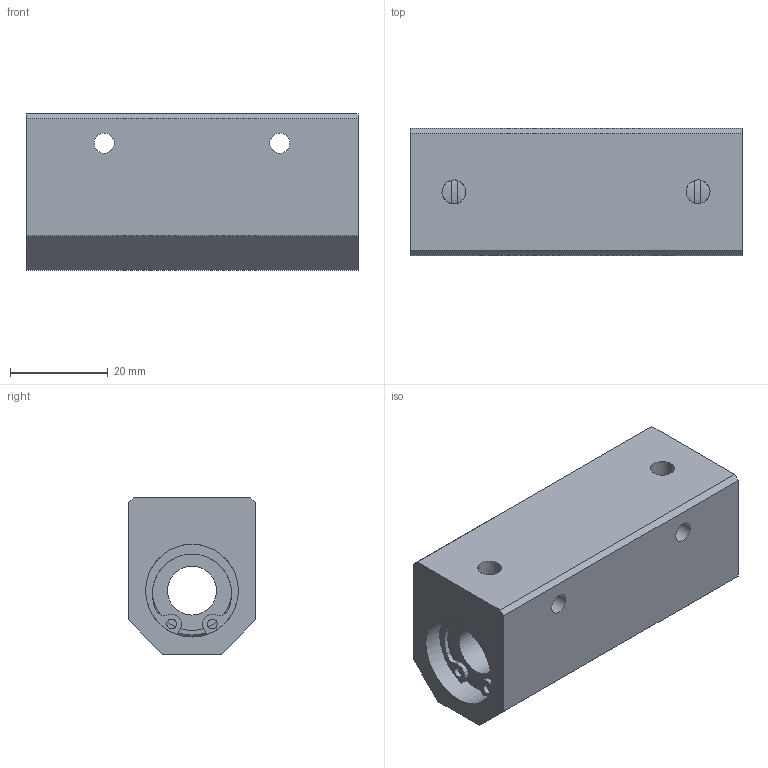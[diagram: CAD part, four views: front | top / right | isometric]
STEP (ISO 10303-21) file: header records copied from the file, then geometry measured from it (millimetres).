
FILE_DESCRIPTION((''),'2;1');
FILE_NAME('D:\製品 (図面)\カタログ用3D\リニアベアリング関連(改)\STEP形式\CHW\CHW10.stp','2010-01-25T09:39:20',('Tsuchiya'),(''),'Autodesk Inventor 10','Autodesk Inventor 10','');
FILE_SCHEMA(('AUTOMOTIVE_DESIGN { 1 0 10303 214 1 1 1 1 }'));
Length unit declared in the file: millimetre
Products named in the file (1): CHW10
Bounding box: 68 x 26 x 32 mm (x, y, z)
Volume: 44175.1 mm3; surface area: 13819 mm2
Topology: 1 solids, 4 shells, 92 faces, 225 edges, 139 vertices
Faces by surface type: bspline 41, plane 28, cylinder 21, torus 2
Full cylindrical faces by diameter (mm): 2 x2, 10 x1, 16.3 x2, 18 x2, 19 x5
Entity records: 2940 total; most frequent: CARTESIAN_POINT 998, DIRECTION 390, ORIENTED_EDGE 358, EDGE_CURVE 179, AXIS2_PLACEMENT_3D 169, EDGE_LOOP 148, VERTEX_POINT 123, CIRCLE 117
